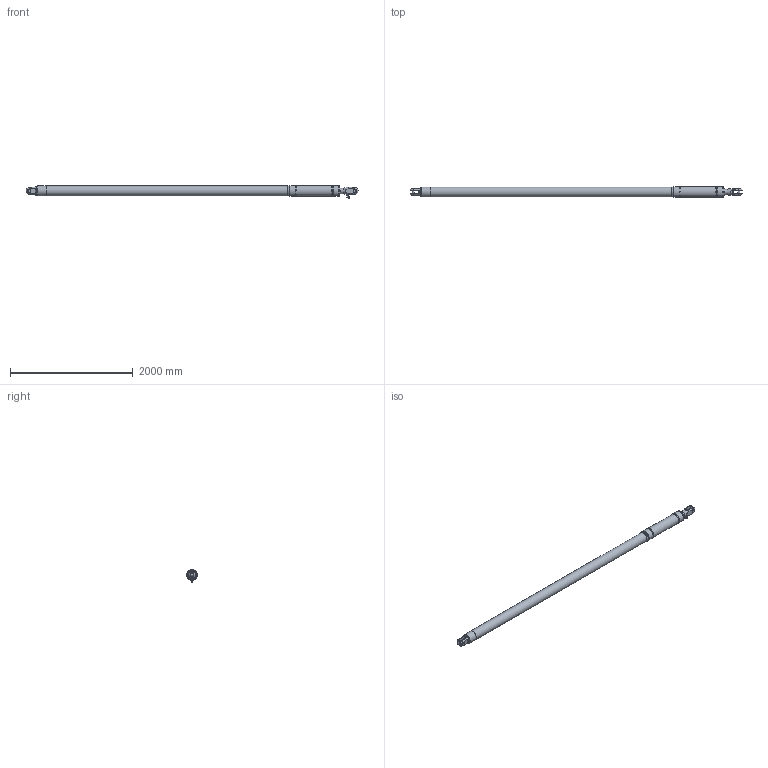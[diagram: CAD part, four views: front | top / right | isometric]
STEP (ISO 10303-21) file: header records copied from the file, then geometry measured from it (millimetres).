
FILE_DESCRIPTION(/* description */ (''),/* implementation_level */ '2;1');
FILE_NAME(/* name */ 'Q:\AA BRAND HYDRAULICS\HYDRAULICS FAMILY DIRECTORY\HYDRAULICS\CYLINDERS\VANGS\ALUMINIUM SINGLE ACTING - STAINLESS ON REQUEST (-0010 To -0150)\VSA-0150-S500-NP-71-L5300\VSA-0150-S500-NP-71-L5300 (Closed).stp',/* time_stamp */ '2018-03-28T14:32:36+01:00',/* author */ ('Lorena'),/* organization */ (''),/* preprocessor_version */ 'ST-DEVELOPER v17',/* originating_system */ 'Autodesk Inventor 2018',/* authorisation */ '');
FILE_SCHEMA (('AUTOMOTIVE_DESIGN { 1 0 10303 214 3 1 1 }'));
Length unit declared in the file: millimetre
Products named in the file (1): VSA-0150-S500-NP-71-L5300 (Closed)
Bounding box: 5408.08 x 174.4 x 209.92 mm (x, y, z)
Volume: 107630946.3 mm3; surface area: 2818387.1 mm2
Topology: 2 solids, 6 shells, 1703 faces, 4556 edges, 3014 vertices
Faces by surface type: plane 974, bspline 578, cylinder 85, cone 58, torus 4, sphere 4
Full cylindrical faces by diameter (mm): 5 x7, 9.9 x1, 10 x2, 11 x2, 11.1 x1, 12 x2, 13 x2, 15 x1, 18.9 x1, 19 x2, 19.11 x1, 19.9 x1, 20 x1, 20.9 x2, 22 x2, 24 x2, 26 x1, 27 x1, 27.8 x3, 32 x1, 38.1 x2, 47.625 x2, 65 x1, 67 x1, 89 x1, 143.5 x1, 145 x1, 162 x2, 169.8 x1, 171.4 x1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
Entity records: 62061 total; most frequent: CARTESIAN_POINT 21563, ORIENTED_EDGE 9102, DIRECTION 5922, EDGE_CURVE 4551, VERTEX_POINT 3018, LINE 2918, VECTOR 2918, EDGE_LOOP 1877
